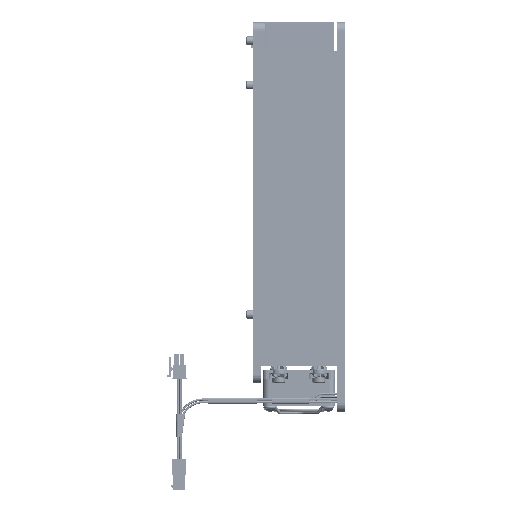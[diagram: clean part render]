
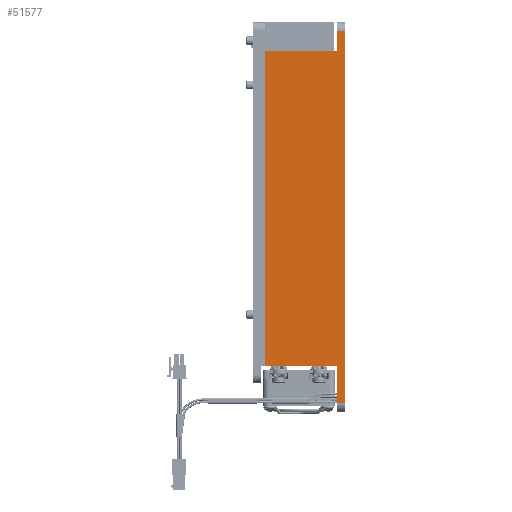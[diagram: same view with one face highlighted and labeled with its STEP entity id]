
A CAD part, left-side view. The second image highlights one B-rep face of the part: STEP entity #51577.
In plain terms, the highlighted planar face has unit normal (-1, 0, 0).
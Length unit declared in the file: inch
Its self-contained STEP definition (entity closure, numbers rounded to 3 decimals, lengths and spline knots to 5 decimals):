
#454 = DIRECTION ( 'NONE',  ( 0., 0., 1. ) ) ;
#496 = ORIENTED_EDGE ( 'NONE', *, *, #29817, .T. ) ;
#1076 = VECTOR ( 'NONE', #61001, 39.37008 ) ;
#2123 = CARTESIAN_POINT ( 'NONE',  ( -3.375, 0.21, 4.0625 ) ) ;
#2246 = EDGE_CURVE ( 'NONE', #58009, #63717, #41823, .T. ) ;
#3216 = VECTOR ( 'NONE', #40261, 39.37008 ) ;
#4418 = ORIENTED_EDGE ( 'NONE', *, *, #64706, .F. ) ;
#5165 = DIRECTION ( 'NONE',  ( 0., 1., 0. ) ) ;
#6962 = CARTESIAN_POINT ( 'NONE',  ( -3.375, 0.035, -4.25 ) ) ;
#9869 = ORIENTED_EDGE ( 'NONE', *, *, #57721, .T. ) ;
#9902 = CARTESIAN_POINT ( 'NONE',  ( -3.375, -6.61367, 3.625 ) ) ;
#9994 = FACE_OUTER_BOUND ( 'NONE', #19559, .T. ) ;
#10657 = LINE ( 'NONE', #24436, #37507 ) ;
#11932 = PLANE ( 'NONE',  #60676 ) ;
#12913 = LINE ( 'NONE', #63816, #38183 ) ;
#13128 = CARTESIAN_POINT ( 'NONE',  ( -3.375, 0.21, 3.625 ) ) ;
#14665 = EDGE_CURVE ( 'NONE', #33835, #63717, #16793, .T. ) ;
#15459 = CARTESIAN_POINT ( 'NONE',  ( -3.375, 0.21, -4.25 ) ) ;
#16148 = ORIENTED_EDGE ( 'NONE', *, *, #2246, .F. ) ;
#16764 = DIRECTION ( 'NONE',  ( 1., 0., 0. ) ) ;
#16793 = LINE ( 'NONE', #2123, #42135 ) ;
#16969 = DIRECTION ( 'NONE',  ( 0., 0., -1. ) ) ;
#18227 = CARTESIAN_POINT ( 'NONE',  ( -3.375, 0.21, 4.0625 ) ) ;
#19559 = EDGE_LOOP ( 'NONE', ( #63246, #20026, #496, #21563, #16148, #9869, #22396, #4418 ) ) ;
#20026 = ORIENTED_EDGE ( 'NONE', *, *, #55098, .T. ) ;
#20635 = CARTESIAN_POINT ( 'NONE',  ( -3.375, 1.785, 3.625 ) ) ;
#21166 = LINE ( 'NONE', #50062, #61959 ) ;
#21563 = ORIENTED_EDGE ( 'NONE', *, *, #14665, .T. ) ;
#22396 = ORIENTED_EDGE ( 'NONE', *, *, #23976, .F. ) ;
#23976 = EDGE_CURVE ( 'NONE', #35349, #31559, #10657, .T. ) ;
#24436 = CARTESIAN_POINT ( 'NONE',  ( -3.375, 1.785, -4.25 ) ) ;
#24655 = DIRECTION ( 'NONE',  ( 0., 0., 1. ) ) ;
#26326 = CARTESIAN_POINT ( 'NONE',  ( -3.375, 0.21, -4.0625 ) ) ;
#27767 = LINE ( 'NONE', #40503, #1076 ) ;
#29817 = EDGE_CURVE ( 'NONE', #33013, #33835, #21166, .T. ) ;
#30070 = CARTESIAN_POINT ( 'NONE',  ( -3.375, 0.21, 4.25 ) ) ;
#31559 = VERTEX_POINT ( 'NONE', #20635 ) ;
#33013 = VERTEX_POINT ( 'NONE', #44549 ) ;
#33090 = DIRECTION ( 'NONE',  ( 0., 1., 0. ) ) ;
#33835 = VERTEX_POINT ( 'NONE', #57578 ) ;
#34627 = CARTESIAN_POINT ( 'NONE',  ( -3.375, 0.21, -3.25 ) ) ;
#34755 = EDGE_CURVE ( 'NONE', #61102, #62115, #58974, .T. ) ;
#35349 = VERTEX_POINT ( 'NONE', #42433 ) ;
#37239 = DIRECTION ( 'NONE',  ( 0., 1., 0. ) ) ;
#37507 = VECTOR ( 'NONE', #55057, 39.37008 ) ;
#38183 = VECTOR ( 'NONE', #33090, 39.37008 ) ;
#40261 = DIRECTION ( 'NONE',  ( 0., 0., 1. ) ) ;
#40503 = CARTESIAN_POINT ( 'NONE',  ( -3.375, 0.035, -4.0625 ) ) ;
#41823 = LINE ( 'NONE', #30070, #3216 ) ;
#42135 = VECTOR ( 'NONE', #37239, 39.37008 ) ;
#42433 = CARTESIAN_POINT ( 'NONE',  ( -3.375, 1.785, -3.25 ) ) ;
#44549 = CARTESIAN_POINT ( 'NONE',  ( -3.375, 0.035, -4.0625 ) ) ;
#45239 = VECTOR ( 'NONE', #454, 39.37008 ) ;
#49761 = VECTOR ( 'NONE', #5165, 39.37008 ) ;
#50062 = CARTESIAN_POINT ( 'NONE',  ( -3.375, 0.035, -4.25 ) ) ;
#51577 = ADVANCED_FACE ( 'NONE', ( #9994 ), #11932, .F. ) ;
#55057 = DIRECTION ( 'NONE',  ( 0., 0., 1. ) ) ;
#55098 = EDGE_CURVE ( 'NONE', #61102, #33013, #27767, .T. ) ;
#57578 = CARTESIAN_POINT ( 'NONE',  ( -3.375, 0.035, 4.0625 ) ) ;
#57721 = EDGE_CURVE ( 'NONE', #58009, #31559, #63447, .T. ) ;
#58009 = VERTEX_POINT ( 'NONE', #13128 ) ;
#58974 = LINE ( 'NONE', #15459, #45239 ) ;
#60676 = AXIS2_PLACEMENT_3D ( 'NONE', #6962, #16764, #16969 ) ;
#61001 = DIRECTION ( 'NONE',  ( 0., -1., 0. ) ) ;
#61102 = VERTEX_POINT ( 'NONE', #26326 ) ;
#61959 = VECTOR ( 'NONE', #24655, 39.37008 ) ;
#62115 = VERTEX_POINT ( 'NONE', #34627 ) ;
#63246 = ORIENTED_EDGE ( 'NONE', *, *, #34755, .F. ) ;
#63447 = LINE ( 'NONE', #9902, #49761 ) ;
#63717 = VERTEX_POINT ( 'NONE', #18227 ) ;
#63816 = CARTESIAN_POINT ( 'NONE',  ( -3.375, -6.61367, -3.25 ) ) ;
#64706 = EDGE_CURVE ( 'NONE', #62115, #35349, #12913, .T. ) ;
